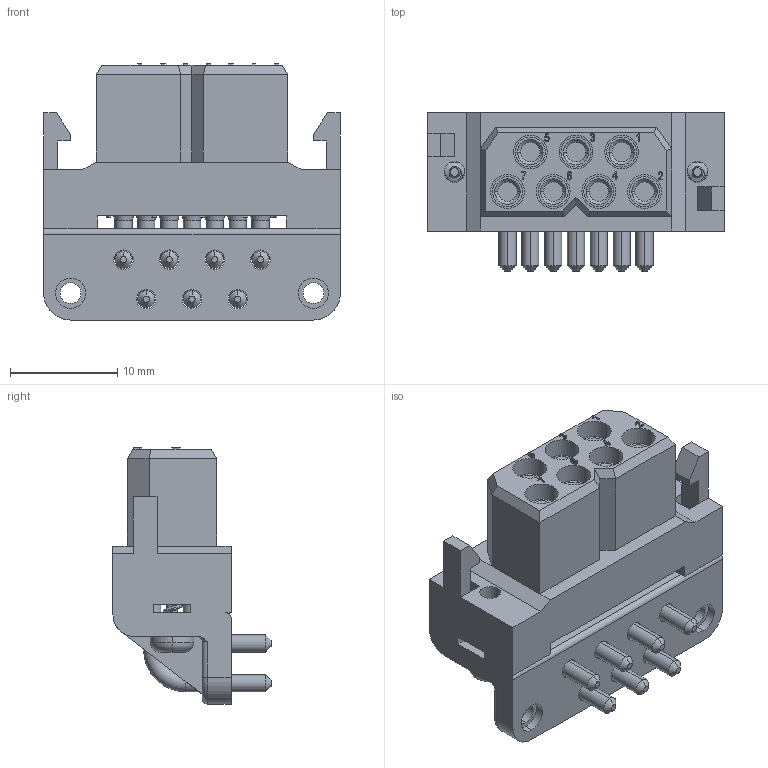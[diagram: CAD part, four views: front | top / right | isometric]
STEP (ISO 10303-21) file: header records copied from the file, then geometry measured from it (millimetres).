
FILE_DESCRIPTION (( 'STEP AP214' ), '1' );
FILE_NAME ('DF07F4B-AA.STEP', '2019-02-28T16:52:02', ( '' ), ( '' ), 'SwSTEP 2.0', 'SolidWorks 2017', '' );
FILE_SCHEMA (( 'AUTOMOTIVE_DESIGN' ));
Length unit declared in the file: inch
Products named in the file (1): DF07F4B-AA
Bounding box: 27.6 x 14.71 x 23.83 mm (x, y, z)
Volume: 3589.2 mm3; surface area: 3391.2 mm2
Topology: 1 solids, 1 shells, 1076 faces, 2986 edges, 1949 vertices
Faces by surface type: plane 634, cylinder 240, bspline 116, cone 64, torus 22
Entity records: 42724 total; most frequent: CARTESIAN_POINT 16206, ORIENTED_EDGE 5972, DIRECTION 4816, EDGE_CURVE 2986, VECTOR 1966, LINE 1966, VERTEX_POINT 1949, AXIS2_PLACEMENT_3D 1425
